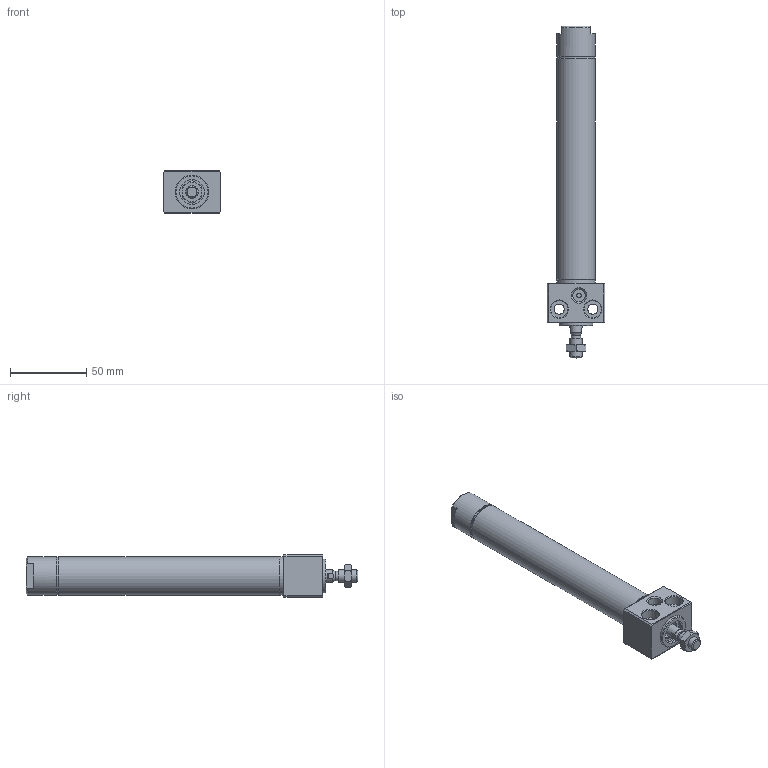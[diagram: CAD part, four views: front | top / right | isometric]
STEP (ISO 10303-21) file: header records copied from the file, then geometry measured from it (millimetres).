
FILE_DESCRIPTION((''),'2;1');
FILE_NAME('I:\3D電子目錄\氣缸\DBS\DBS\DBS20x100.stp','2007-10-08T08:31:01',('Administrator'),(''),'Autodesk Inventor 2008','Autodesk Inventor 2008','');
FILE_SCHEMA(('AUTOMOTIVE_DESIGN { 1 0 10303 214 1 1 1 1 }'));
Length unit declared in the file: millimetre
Products named in the file (1): DBS20x100
Bounding box: 38 x 217.6 x 28 mm (x, y, z)
Volume: 68499.2 mm3; surface area: 38622.2 mm2
Topology: 6 solids, 6 shells, 165 faces, 325 edges, 197 vertices
Faces by surface type: plane 73, cone 41, cylinder 36, bspline 12, torus 3
Full cylindrical faces by diameter (mm): 3 x1, 5 x1, 6 x3, 8 x3, 8.5 x1, 10 x1, 10.5 x2, 12 x3, 14.5 x2, 16 x2, 17 x1, 18 x2, 20 x1, 20.2 x2, 22 x1, 22.2 x6, 25 x4
Entity records: 4012 total; most frequent: CARTESIAN_POINT 924, DIRECTION 650, ORIENTED_EDGE 486, AXIS2_PLACEMENT_3D 287, EDGE_LOOP 282, EDGE_CURVE 243, VERTEX_POINT 189, FACE_OUTER_BOUND 165
